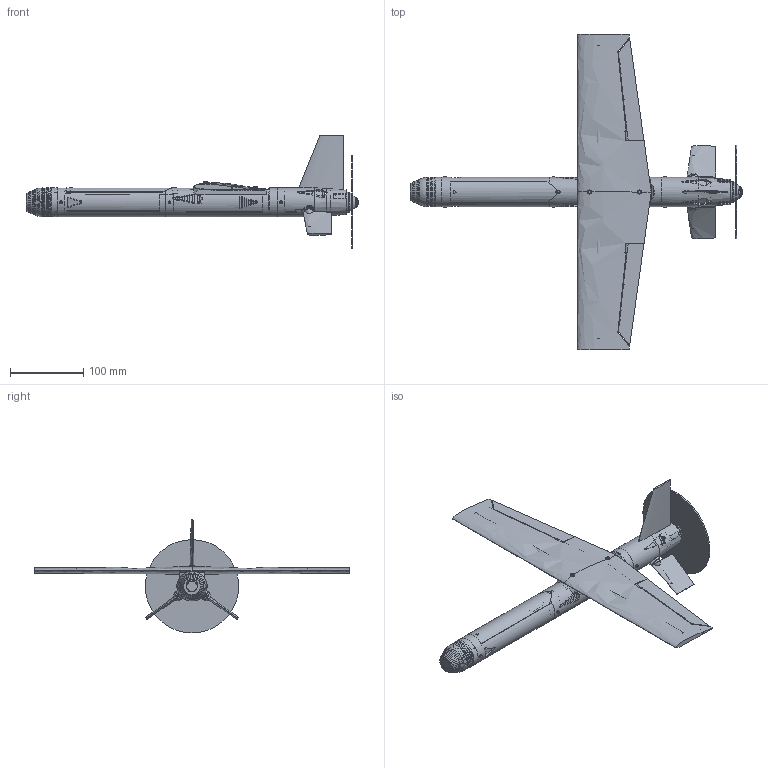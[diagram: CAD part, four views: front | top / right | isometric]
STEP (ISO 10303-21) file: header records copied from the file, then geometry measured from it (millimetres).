
FILE_DESCRIPTION(('Open CASCADE Model'),'2;1');
FILE_NAME('Open CASCADE Shape Model','2026-10-04T21:26:29',('Author'),( 'Open CASCADE'),'Open CASCADE STEP processor 7.9','Open CASCADE 7.9' ,'Unknown');
FILE_SCHEMA(('AUTOMOTIVE_DESIGN { 1 0 10303 214 1 1 1 1 }'));
Length unit declared in the file: millimetre
Products named in the file (131): C4; N0M-nose-micro-camera; N0M-vtx-shelf; F1-fuselage-front; F2-fuselage-main; F3-tail-module; HF-front-hatch; HG-gps-carrier; WR-wing-right; WL-wing-left; AR-aileron-right; AL-aileron-left; SR-stabilator-right; SL-stabilator-left; FN-fin; M1-motor-plate; SP-spinner; ENV-motor; ENV-prop_disc; ENV-prop_hub_nut; ENV-battery; ENV-camera_micro19; ENV-cam_screws; ENV-MD_camera_micro19; ENV-MD_cam_screws; ENV-MD_vtx; ENV-MD_dome; ENV-PD_pi_board; ENV-PD_pi_sensor_lens; ENV-PD_pi_connector; ENV-PD_pi_ribbon; ENV-PD_pi_screws; ENV-PD_dome; ENV-O_o4_camera; ENV-O_o4_screws; ENV-O_o4_module; ENV-OD_o4_camera; ENV-OD_o4_screws; ENV-OD_o4_module; ENV-OD_dome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
Assembly tree (130 placements, depth 2):
  C4
    N0M-nose-micro-camera
    N0M-vtx-shelf
    F1-fuselage-front
    F2-fuselage-main
    F3-tail-module
    HF-front-hatch
    HG-gps-carrier
    WR-wing-right
    WL-wing-left
    AR-aileron-right
    AL-aileron-left
    SR-stabilator-right
    SL-stabilator-left
    FN-fin
    M1-motor-plate
    SP-spinner
    ENV-motor
    ENV-prop_disc
    ENV-prop_hub_nut
    ENV-battery
    ENV-camera_micro19
    ENV-cam_screws
    ENV-MD_camera_micro19
    ENV-MD_cam_screws
    ENV-MD_vtx
    ENV-MD_dome
    ENV-PD_pi_board
    ENV-PD_pi_sensor_lens
    ENV-PD_pi_connector
    ENV-PD_pi_ribbon
    ENV-PD_pi_screws
    ENV-PD_dome
    ENV-O_o4_camera
    ENV-O_o4_screws
    ENV-O_o4_module
    ENV-OD_o4_camera
    ENV-OD_o4_screws
    ENV-OD_o4_module
    ENV-OD_dome
    ENV-vtx
    ENV-gnss
    ENV-flight_controller
    ENV-ail_servo_arm
    ENV-ail_rod_R
    ENV-ail_link_R
    ENV-ail_rod_L
    ENV-ail_link_L
    ENV-ail_spine_R
    ENV-ail_spine_L
    ENV-receiver
    ENV-ant_elrs
    ENV-ant_vtx
    ENV-MD_ant_vtx
    ENV-O_ant_video
    ENV-OD_ant_video
    ENV-aileron_servo
    ENV-tail_servo_L
    ENV-tail_servo_R
    ENV-esc
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Bounding box: 452.19 x 430 x 155.1 mm (x, y, z)
Volume: 497920.4 mm3; surface area: 351512.1 mm2
Topology: 155 solids, 157 shells, 2706 faces, 6892 edges, 4489 vertices
Faces by surface type: plane 1720, bspline 427, cylinder 415, cone 117, torus 14, sphere 13
Full cylindrical faces by diameter (mm): 0.8 x12, 0.85 x4, 0.98 x6, 1.5 x2, 1.6 x31, 1.7 x2, 2 x38, 2.1 x2, 2.2 x14, 2.3 x2, 2.5 x2, 2.6 x8, 3 x14, 3.05 x2, 3.2 x4, 3.8 x12, 3.9 x3, 3.94 x3, 5 x10, 5.2 x3, 5.5 x6, 5.6 x3, 6 x5, 6.95 x1, 9 x1, 9.2 x1, 12.7 x1, 13 x2, 14 x2, 17 x2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
Entity records: 380756 total; most frequent: CARTESIAN_POINT 251562, DIRECTION 19631, ORIENTED_EDGE 13730, PCURVE 13730, DEFINITIONAL_REPRESENTATION 13730, LINE 10067, VECTOR 10067, B_SPLINE_CURVE_WITH_KNOTS 6896
